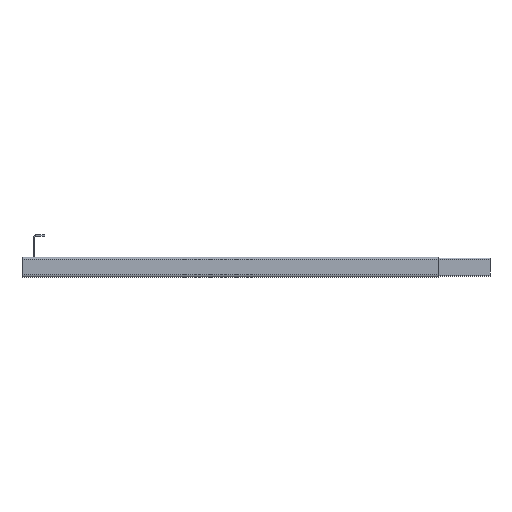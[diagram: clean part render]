
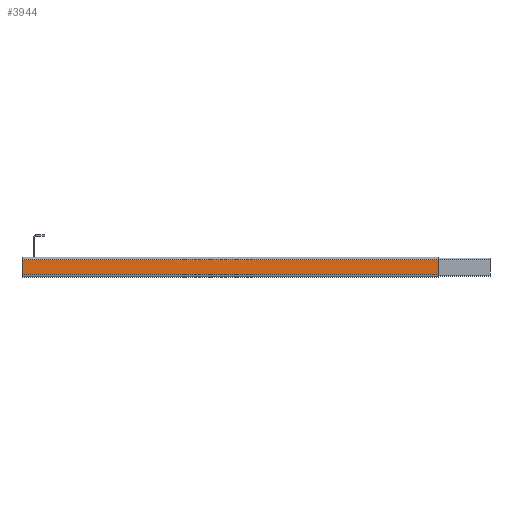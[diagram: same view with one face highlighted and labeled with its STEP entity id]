
A CAD part, left-side view. The second image highlights one B-rep face of the part: STEP entity #3944.
In plain terms, the highlighted planar face has unit normal (-1, 0, 0).
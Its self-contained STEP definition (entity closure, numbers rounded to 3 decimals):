
#2346=DIRECTION('',(0.,-1.,0.));
#2347=VECTOR('',#2346,1200.);
#2348=CARTESIAN_POINT('',(-225.,0.,22.058));
#2349=LINE('',#2348,#2347);
#2518=DIRECTION('',(0.,0.,1.));
#2519=VECTOR('',#2518,44.116);
#2520=CARTESIAN_POINT('',(-225.,-1200.,-22.058));
#2521=LINE('',#2520,#2519);
#2693=DIRECTION('',(0.,0.,1.));
#2694=VECTOR('',#2693,44.116);
#2695=CARTESIAN_POINT('',(-225.,0.,-22.058));
#2696=LINE('',#2695,#2694);
#2705=DIRECTION('',(0.,-1.,0.));
#2706=VECTOR('',#2705,1200.);
#2707=CARTESIAN_POINT('',(-225.,0.,-22.058));
#2708=LINE('',#2707,#2706);
#2951=CARTESIAN_POINT('',(-225.,0.,-22.058));
#2952=CARTESIAN_POINT('',(-225.,0.,22.058));
#2953=VERTEX_POINT('',#2951);
#2954=VERTEX_POINT('',#2952);
#2971=CARTESIAN_POINT('',(-225.,-1200.,-22.058));
#2972=CARTESIAN_POINT('',(-225.,-1200.,22.058));
#2973=VERTEX_POINT('',#2971);
#2974=VERTEX_POINT('',#2972);
#3932=CARTESIAN_POINT('',(-225.,0.,-28.5));
#3933=DIRECTION('',(-1.,0.,0.));
#3934=DIRECTION('',(0.,0.,1.));
#3935=AXIS2_PLACEMENT_3D('',#3932,#3933,#3934);
#3936=PLANE('',#3935);
#3937=ORIENTED_EDGE('',*,*,#3923,.T.);
#3938=ORIENTED_EDGE('',*,*,#3365,.T.);
#3939=ORIENTED_EDGE('',*,*,#3640,.F.);
#3941=ORIENTED_EDGE('',*,*,#3940,.F.);
#3942=EDGE_LOOP('',(#3937,#3938,#3939,#3941));
#3943=FACE_OUTER_BOUND('',#3942,.F.);
#3365=EDGE_CURVE('',#2954,#2974,#2349,.T.);
#3640=EDGE_CURVE('',#2973,#2974,#2521,.T.);
#3923=EDGE_CURVE('',#2953,#2954,#2696,.T.);
#3940=EDGE_CURVE('',#2953,#2973,#2708,.T.);
#3944=ADVANCED_FACE('',(#3943),#3936,.T.);
